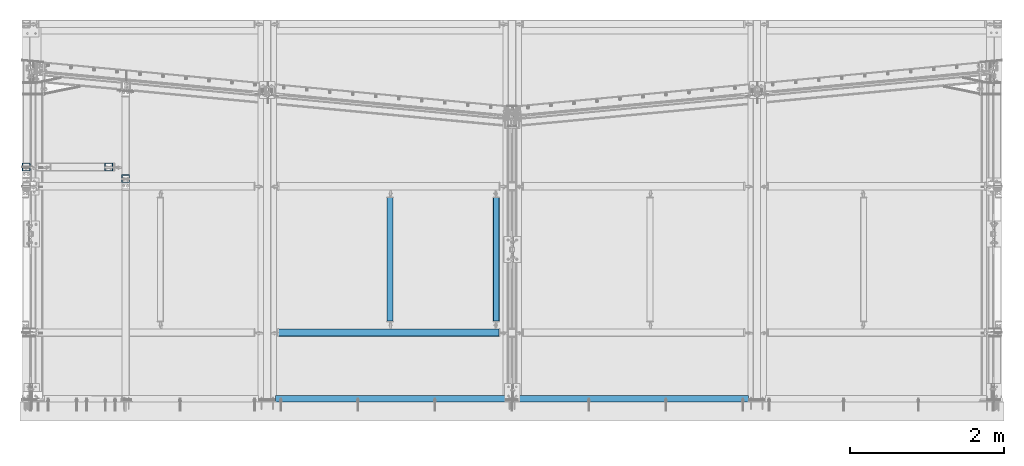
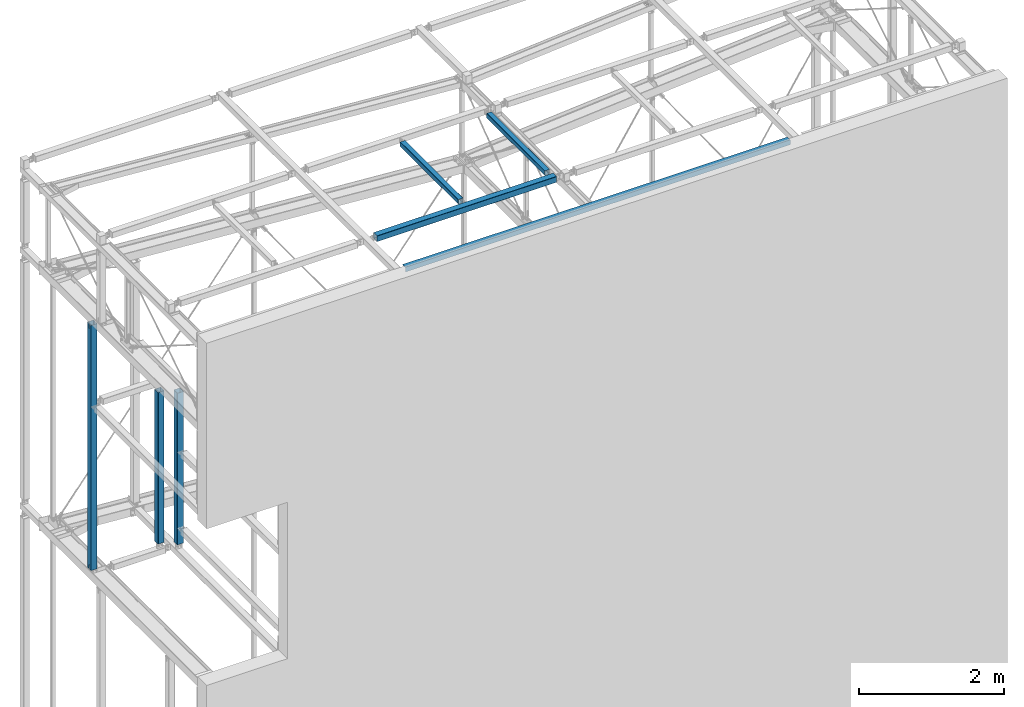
# One storey, part 17 of 271: 7 beams, 7 elements without a shape of their own.
"""IFC2X3 building model written with IfcOpenShell, lengths in millimetres."""

from ifc_helpers import new_model, si_unit, frame, origin_with_axes, origin_2d_with_axis, place, context, subcontext, project, spatial, polyline, hollow_rectangle, l_section, outline, extrude, boolean, clip, halfspace, material, type_object, element, aggregate, save


model = new_model("IFC2X3")

# Units and contexts
model_context = context("Model", 3, precision=1e-05, world=origin_with_axes())
body_context = subcontext(model_context, "Body", "Model", "MODEL_VIEW")
ifc_project = project(units=[si_unit("LENGTHUNIT", "METRE", prefix="MILLI"), si_unit("AREAUNIT", "SQUARE_METRE"), si_unit("VOLUMEUNIT", "CUBIC_METRE"), si_unit("MASSUNIT", "GRAM", prefix="KILO"), si_unit("TIMEUNIT", "SECOND"), si_unit("PLANEANGLEUNIT", "RADIAN"), si_unit("SOLIDANGLEUNIT", "STERADIAN"), si_unit("THERMODYNAMICTEMPERATUREUNIT", "DEGREE_CELSIUS"), si_unit("LUMINOUSINTENSITYUNIT", "LUMEN")], contexts=[model_context])

# Site, building, storey
site_placement = place(None, origin_with_axes())
site = spatial("IfcSite", under=ifc_project, at=site_placement, Name="Undefined", CompositionType="ELEMENT")
building_placement = place(site_placement, origin_with_axes())
building = spatial("IfcBuilding", under=site, at=building_placement, Name="Undefined", CompositionType="ELEMENT")
storey_placement = place(building_placement, origin_with_axes())
storey = spatial("IfcBuildingStorey", under=building, at=storey_placement, Name="Undefined", CompositionType="ELEMENT", Elevation=0.0)

# Assembly, beam
assembly_1_placement = place(storey_placement, origin_with_axes())
assembly_1 = element("IfcElementAssembly", 1, at=assembly_1_placement, inside=storey, AssemblyPlace="NOTDEFINED", PredefinedType="RIGID_FRAME")
ifc_material = material(Name="STEEL/S355JR")
beam_type_1 = type_object("IfcBeamType", Name="SHS100*3", PredefinedType="NOTDEFINED")
beam_1_placement = place(assembly_1_placement, frame((1110.37568709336, 3049.0521198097, 14411.8499999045), z_axis=(0.0, 1.0, 0.0), x_axis=(0.0, 0.0, 1.0)))
beam_1 = element("IfcBeam", 2, at=beam_1_placement, type_object=beam_type_1, material=ifc_material, Name="RYGIEL", ObjectType="SHS100*3", context=body_context, shape_type="Clipping", body=[
    clip(clip(extrude(hollow_rectangle(XDim=100.0, YDim=100.0, WallThickness=3.0, InnerFilletRadius=3.0, OuterFilletRadius=6.0, at=origin_2d_with_axis()), frame((2732.5, 0.0, 0.0), z_axis=(-1.0, 0.0, 1.38777878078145e-17), x_axis=(0.0, -1.0, 0.0)), (0.0, 0.0, 1.0), 2732.5), halfspace(frame((2634.49999999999, 0.0, -15.0), z_axis=(-1.0, 0.0, 1.38777878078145e-17), x_axis=(0.0, 1.0, 0.0)), True)), halfspace(frame((78.0000000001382, 0.0, -15.0), z_axis=(1.0, 0.0, 0.0), x_axis=(0.0, -1.0, 0.0)), True)),
])
aggregate(assembly_1, [beam_1])

assembly_2_placement = place(storey_placement, origin_with_axes())
assembly_2 = element("IfcElementAssembly", 3, at=assembly_2_placement, inside=storey, AssemblyPlace="NOTDEFINED", PredefinedType="RIGID_FRAME")
beam_2_placement = place(assembly_2_placement, frame((1330.37568709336, 2899.0521198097, 14411.8499999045), z_axis=(0.0, 1.0, 0.0), x_axis=(0.0, 0.0, 1.0)))
beam_2 = element("IfcBeam", 4, at=beam_2_placement, type_object=beam_type_1, material=ifc_material, Name="RYGIEL", ObjectType="SHS100*3", context=body_context, shape_type="Clipping", body=[
    clip(clip(extrude(hollow_rectangle(XDim=100.0, YDim=100.0, WallThickness=3.0, InnerFilletRadius=3.0, OuterFilletRadius=6.0, at=origin_2d_with_axis()), frame((2732.5, 0.0, 0.0), z_axis=(-1.0, 0.0, 1.38777878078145e-17), x_axis=(0.0, -1.0, 0.0)), (0.0, 0.0, 1.0), 2732.5), halfspace(frame((2634.49999999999, 0.0, -15.0), z_axis=(-1.0, 0.0, 1.38777878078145e-17), x_axis=(0.0, 1.0, 0.0)), True)), halfspace(frame((78.0000000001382, 0.0, -15.0), z_axis=(1.0, 0.0, 0.0), x_axis=(0.0, -1.0, 0.0)), True)),
])
aggregate(assembly_2, [beam_2])

assembly_3_placement = place(storey_placement, origin_with_axes())
assembly_3 = element("IfcElementAssembly", 5, at=assembly_3_placement, inside=storey, AssemblyPlace="NOTDEFINED", PredefinedType="RIGID_FRAME")
beam_3_placement = place(assembly_3_placement, frame((38.3756870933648, 3049.05211980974, 14411.8499999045), z_axis=(0.0, 1.0, 0.0), x_axis=(0.0, 0.0, 1.0)))
beam_3 = element("IfcBeam", 6, at=beam_3_placement, type_object=beam_type_1, material=ifc_material, Name="RYGIEL", ObjectType="SHS100*3", context=body_context, shape_type="CSG", body=[
    boolean("DIFFERENCE", boolean("DIFFERENCE", boolean("DIFFERENCE", extrude(hollow_rectangle(XDim=100.0, YDim=100.0, WallThickness=3.0, InnerFilletRadius=3.0, OuterFilletRadius=6.0, at=origin_2d_with_axis()), frame((4141.0, 0.0, 0.0), z_axis=(-1.0, 0.0, 1.38777878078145e-17), x_axis=(0.0, -1.0, 0.0)), (0.0, 0.0, 1.0), 4141.0), extrude(outline(polyline([(0.0, 40.0), (80.0, 0.0), (151.0, -1.91135995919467e-12), (151.0, 120.0), (91.0, 120.0), (91.0, 150.0), (1.4210854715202e-14, 150.0), (0.0, 40.0)])), frame((4064.0, 99.9999999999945, 5.00000000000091), z_axis=(0.0, 0.0, -1.0), x_axis=(1.0, 0.0, 0.0)), (0.0, 0.0, 1.0), 10.0)), extrude(outline(polyline([(0.0, 40.0), (80.0, 0.0), (151.0, -1.91135995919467e-12), (151.0, 120.0), (91.0, 120.0), (91.0, 150.0), (1.4210854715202e-14, 150.0), (0.0, 40.0)])), frame((81.0000000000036, 99.9999999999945, -4.99999999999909), z_axis=(0.0, 0.0, 1.0), x_axis=(-1.0, 0.0, 1.38777878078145e-17)), (0.0, 0.0, 1.0), 10.0)), halfspace(frame((4.0, 0.0, -50.0), z_axis=(1.0, 0.0, 0.0), x_axis=(0.0, -1.0, 0.0)), True)),
])
aggregate(assembly_3, [beam_3])

assembly_4_placement = place(storey_placement, origin_with_axes())
assembly_4 = element("IfcElementAssembly", 7, at=assembly_4_placement, inside=storey, AssemblyPlace="NOTDEFINED", PredefinedType="RIGID_FRAME")
beam_4_placement = place(assembly_4_placement, frame((3168.37568709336, 899.32498425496, 20154.3499999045), z_axis=(0.0, 1.0, 0.0), x_axis=(1.0, 0.0, 0.0)))
beam_4 = element("IfcBeam", 8, at=beam_4_placement, type_object=beam_type_1, material=ifc_material, Name="RYGIEL", ObjectType="SHS100*3", context=body_context, shape_type="Clipping", body=[
    clip(clip(extrude(hollow_rectangle(XDim=100.0, YDim=100.0, WallThickness=3.0, InnerFilletRadius=3.0, OuterFilletRadius=6.0, at=origin_2d_with_axis()), frame((3180.0, 0.0, 0.0), z_axis=(-1.0, 0.0, 1.38777878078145e-17), x_axis=(0.0, -1.0, 0.0)), (0.0, 0.0, 1.0), 3180.0), halfspace(frame((3012.0, 0.0, -15.0), z_axis=(-1.0, 0.0, 1.38777878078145e-17), x_axis=(0.0, 1.0, 0.0)), True)), halfspace(frame((148.000000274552, 0.0, -15.0), z_axis=(1.0, 0.0, 0.0), x_axis=(0.0, -1.0, 0.0)), True)),
])
aggregate(assembly_4, [beam_4])

assembly_5_placement = place(storey_placement, origin_with_axes())
assembly_5 = element("IfcElementAssembly", 9, at=assembly_5_placement, inside=storey, AssemblyPlace="NOTDEFINED", PredefinedType="RIGID_FRAME")
beam_type_2 = type_object("IfcBeamType", Name="SHS80*3", PredefinedType="NOTDEFINED")
beam_5_placement = place(assembly_5_placement, frame((6143.37568709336, 2847.32511981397, 20164.3499999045), z_axis=(1.0, 0.0, 0.0), x_axis=(0.0, -1.0, 0.0)))
beam_5 = element("IfcBeam", 10, at=beam_5_placement, type_object=beam_type_2, material=ifc_material, Name="SŁUPEK", ObjectType="SHS80*3", context=body_context, shape_type="Clipping", body=[
    clip(clip(extrude(hollow_rectangle(XDim=80.0, YDim=80.0, WallThickness=3.0, InnerFilletRadius=3.0, OuterFilletRadius=6.0, at=origin_2d_with_axis()), frame((1800.00027110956, 0.0, 0.0), z_axis=(-1.0, 0.0, 1.38777878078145e-17), x_axis=(0.0, -1.0, 0.0)), (0.0, 0.0, 1.0), 1800.0), halfspace(frame((1800.00013555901, 0.0, -15.0), z_axis=(-1.0, 0.0, 1.38777878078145e-17), x_axis=(0.0, 1.0, 0.0)), True)), halfspace(frame((196.000135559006, 0.0, -15.0), z_axis=(1.0, 0.0, 0.0), x_axis=(0.0, -1.0, 0.0)), True)),
])
aggregate(assembly_5, [beam_5])

assembly_6_placement = place(storey_placement, origin_with_axes())
assembly_6 = element("IfcElementAssembly", 11, at=assembly_6_placement, inside=storey, AssemblyPlace="NOTDEFINED", PredefinedType="RIGID_FRAME")
beam_6_placement = place(assembly_6_placement, frame((4763.37568709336, 2847.32511981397, 20164.3499999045), z_axis=(1.0, 0.0, 0.0), x_axis=(0.0, -1.0, 0.0)))
beam_6 = element("IfcBeam", 12, at=beam_6_placement, type_object=beam_type_2, material=ifc_material, Name="SŁUPEK", ObjectType="SHS80*3", context=body_context, shape_type="Clipping", body=[
    clip(clip(extrude(hollow_rectangle(XDim=80.0, YDim=80.0, WallThickness=3.0, InnerFilletRadius=3.0, OuterFilletRadius=6.0, at=origin_2d_with_axis()), frame((1800.00027110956, 0.0, 0.0), z_axis=(-1.0, 0.0, 1.38777878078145e-17), x_axis=(0.0, -1.0, 0.0)), (0.0, 0.0, 1.0), 1800.0), halfspace(frame((1800.00013555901, 0.0, 15.0), z_axis=(-1.0, 0.0, 1.38777878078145e-17), x_axis=(0.0, -1.0, 0.0)), True)), halfspace(frame((196.000135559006, 0.0, 15.0), z_axis=(1.0, 0.0, 0.0), x_axis=(0.0, 1.0, 0.0)), True)),
])
aggregate(assembly_6, [beam_6])

assembly_7_placement = place(storey_placement, origin_with_axes())
assembly_7 = element("IfcElementAssembly", 13, at=assembly_7_placement, inside=storey, AssemblyPlace="NOTDEFINED", PredefinedType="RIGID_FRAME")
beam_type_3 = type_object("IfcBeamType", Name="L80*80*6", PredefinedType="NOTDEFINED")
beam_7_placement = place(assembly_7_placement, frame((3278.37568709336, 39.3249842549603, 20164.3499999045), z_axis=(0.0, 0.0, -1.0), x_axis=(1.0, 0.0, 0.0)))
beam_7 = element("IfcBeam", 14, at=beam_7_placement, type_object=beam_type_3, material=ifc_material, Name="KĄTOWNIK", ObjectType="L80*80*6", context=body_context, shape_type="SweptSolid", body=[
    extrude(l_section(Depth=80.0, Width=80.0, Thickness=6.0, FilletRadius=9.0, at=origin_2d_with_axis()), frame((6140.0, 0.0, 0.0), z_axis=(-1.0, 0.0, 1.38777878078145e-17), x_axis=(0.0, -1.0, 0.0)), (0.0, 0.0, 1.0), 6140.0),
])
aggregate(assembly_7, [beam_7])

save(model, "model.ifc")
